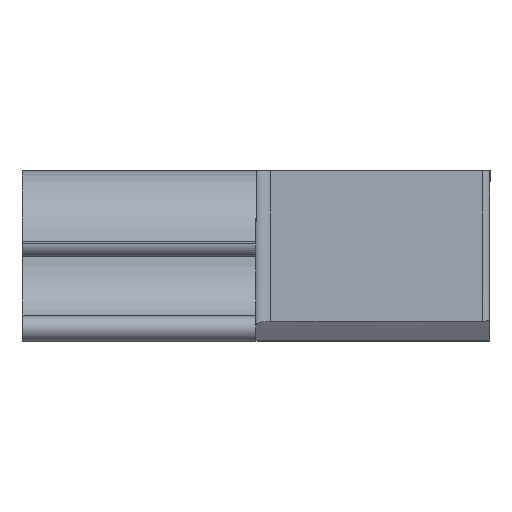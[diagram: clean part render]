
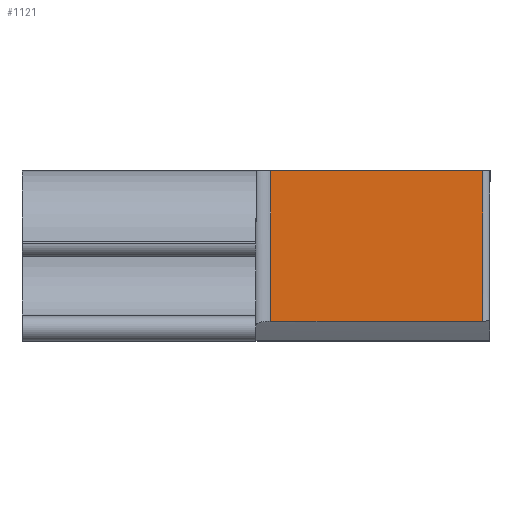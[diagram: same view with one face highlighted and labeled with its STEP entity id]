
A CAD part, left-side view. The second image highlights one B-rep face of the part: STEP entity #1121.
In plain terms, the highlighted planar face has unit normal (-1, 0, 0).
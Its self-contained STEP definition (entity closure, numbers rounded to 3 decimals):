
#16 = VERTEX_POINT ( 'NONE', #83 ) ;
#53 = VERTEX_POINT ( 'NONE', #117 ) ;
#58 = VERTEX_POINT ( 'NONE', #122 ) ;
#67 = VERTEX_POINT ( 'NONE', #131 ) ;
#83 = CARTESIAN_POINT ( 'NONE',  ( -100.6, 19.2, 7.5 ) ) ;
#117 = CARTESIAN_POINT ( 'NONE',  ( -100.6, 0.65, 7.5 ) ) ;
#122 = CARTESIAN_POINT ( 'NONE',  ( -100.6, 19.2, -5.659 ) ) ;
#131 = CARTESIAN_POINT ( 'NONE',  ( -100.6, 0.65, -5.659 ) ) ;
#235 = CARTESIAN_POINT ( 'NONE',  ( -100.6, -0.676, 7.5 ) ) ;
#236 = PLANE ( 'NONE',  #1265 ) ;
#238 = DIRECTION ( 'NONE',  ( 1., 0., 0. ) ) ;
#239 = DIRECTION ( 'NONE',  ( 0., 1., 0. ) ) ;
#264 = CARTESIAN_POINT ( 'NONE',  ( -100.6, -0.676, 7.5 ) ) ;
#269 = CARTESIAN_POINT ( 'NONE',  ( -100.6, 45.5, -5.659 ) ) ;
#270 = DIRECTION ( 'NONE',  ( 0., -1., 0. ) ) ;
#271 = DIRECTION ( 'NONE',  ( 0., -1., 0. ) ) ;
#327 = CARTESIAN_POINT ( 'NONE',  ( -100.6, 0.65, 7.5 ) ) ;
#328 = DIRECTION ( 'NONE',  ( 0., 0., 1. ) ) ;
#407 = CARTESIAN_POINT ( 'NONE',  ( -100.6, 19.2, -5.659 ) ) ;
#408 = DIRECTION ( 'NONE',  ( 0., 0., -1. ) ) ;
#707 = EDGE_LOOP ( 'NONE', ( #721, #723, #722, #720 ) ) ;
#720 = ORIENTED_EDGE ( 'NONE', *, *, #1149, .T. ) ;
#721 = ORIENTED_EDGE ( 'NONE', *, *, #1131, .F. ) ;
#722 = ORIENTED_EDGE ( 'NONE', *, *, #1132, .T. ) ;
#723 = ORIENTED_EDGE ( 'NONE', *, *, #1174, .T. ) ;
#941 = FACE_OUTER_BOUND ( 'NONE', #707, .T. ) ;
#951 = LINE ( 'NONE', #269, #958 ) ;
#952 = VECTOR ( 'NONE', #270, 1000. ) ;
#956 = LINE ( 'NONE', #264, #952 ) ;
#958 = VECTOR ( 'NONE', #271, 1000. ) ;
#976 = LINE ( 'NONE', #327, #977 ) ;
#977 = VECTOR ( 'NONE', #328, 1000. ) ;
#998 = LINE ( 'NONE', #407, #1013 ) ;
#1013 = VECTOR ( 'NONE', #408, 1000. ) ;
#1121 = ADVANCED_FACE ( 'NONE', ( #941 ), #236, .F. ) ;
#1131 = EDGE_CURVE ( 'NONE', #16, #53, #956, .T. ) ;
#1132 = EDGE_CURVE ( 'NONE', #58, #67, #951, .T. ) ;
#1149 = EDGE_CURVE ( 'NONE', #67, #53, #976, .T. ) ;
#1174 = EDGE_CURVE ( 'NONE', #16, #58, #998, .T. ) ;
#1265 = AXIS2_PLACEMENT_3D ( 'NONE', #235, #238, #239 ) ;
